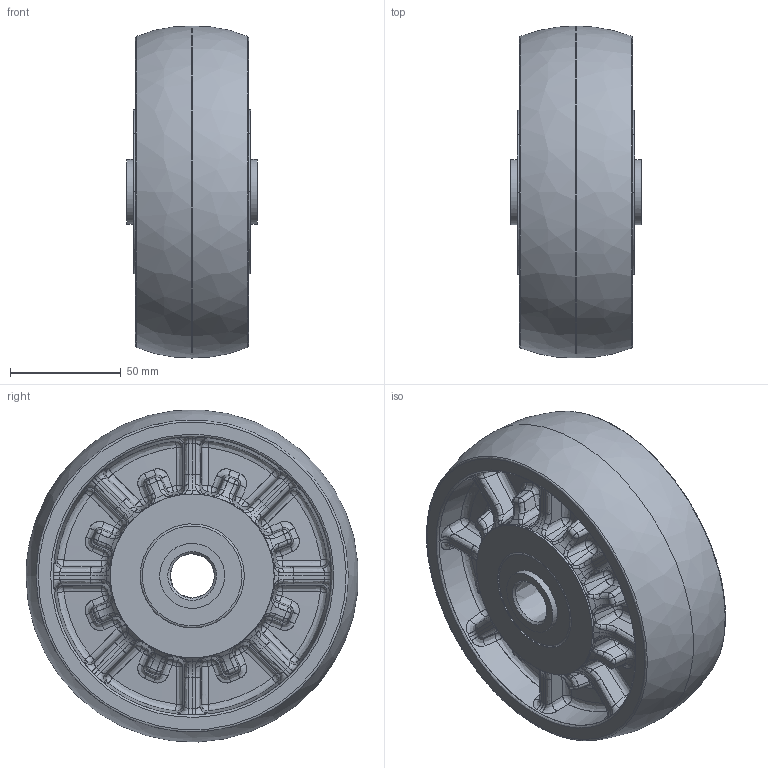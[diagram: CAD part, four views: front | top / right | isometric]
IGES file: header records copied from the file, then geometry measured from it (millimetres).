
Start section: JAMA-IS VERSION  1.0
Global section: file name: E:\tools-models\その他メーカー2\INOAC車輪\5月\HE-150W\HE-150W-ALL.igs; native system: CAM-TOOL; preprocessor: C3out Version 11.1.1.50212 (2015/02/12); author: NONE; organization: NONE; date: 210528.073241; units: millimetre
Bounding box: 59 x 149.81 x 149.84 mm (x, y, z)
Surface area: 92347.4 mm2 (no closed solid volume)
Topology: 0 solids, 0 shells, 1140 faces, 6415 edges, 6254 vertices
Faces by surface type: bspline 1140
